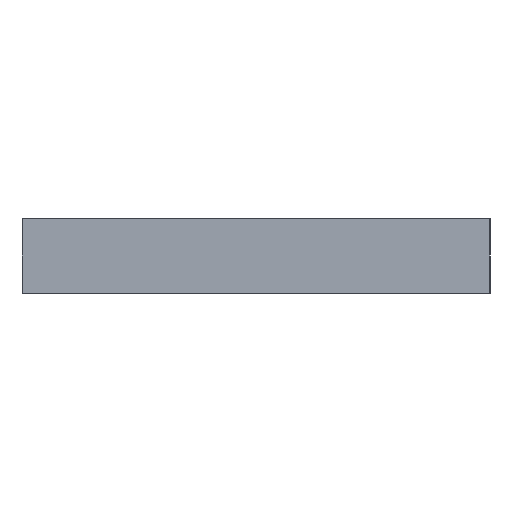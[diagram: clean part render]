
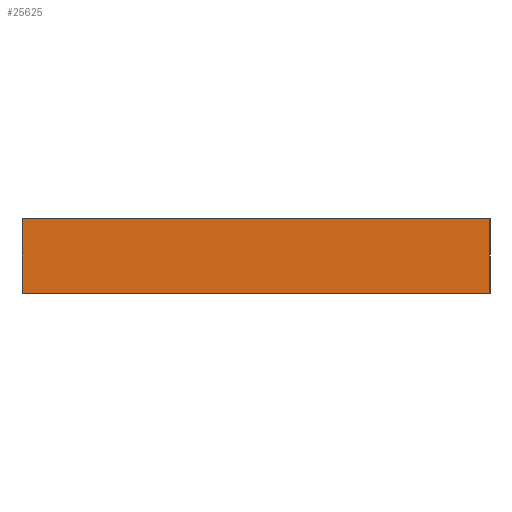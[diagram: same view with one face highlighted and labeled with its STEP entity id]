
A CAD part, left-side view. The second image highlights one B-rep face of the part: STEP entity #25625.
In plain terms, the highlighted planar face has unit normal (-1, 0, 0).
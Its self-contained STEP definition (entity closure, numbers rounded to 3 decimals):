
#269 = EDGE_CURVE ( 'NONE', #26257, #3126, #13758, .T. ) ;
#458 = VERTEX_POINT ( 'NONE', #26533 ) ;
#1340 = DIRECTION ( 'NONE',  ( 0., 0., 1. ) ) ;
#2895 = ORIENTED_EDGE ( 'NONE', *, *, #4667, .T. ) ;
#3126 = VERTEX_POINT ( 'NONE', #24850 ) ;
#3709 = DIRECTION ( 'NONE',  ( 0., -1., 0. ) ) ;
#3786 = CARTESIAN_POINT ( 'NONE',  ( -280., -192.5, -61. ) ) ;
#4667 = EDGE_CURVE ( 'NONE', #26257, #21161, #18159, .T. ) ;
#6723 = CARTESIAN_POINT ( 'NONE',  ( -280., -192.5, -61. ) ) ;
#10070 = AXIS2_PLACEMENT_3D ( 'NONE', #26064, #16195, #1340 ) ;
#12204 = EDGE_CURVE ( 'NONE', #21161, #458, #31233, .T. ) ;
#12692 = ORIENTED_EDGE ( 'NONE', *, *, #12204, .T. ) ;
#13751 = EDGE_CURVE ( 'NONE', #3126, #458, #14630, .T. ) ;
#13758 = LINE ( 'NONE', #25905, #17455 ) ;
#14630 = LINE ( 'NONE', #18241, #28545 ) ;
#16195 = DIRECTION ( 'NONE',  ( -1., 0., 0. ) ) ;
#17455 = VECTOR ( 'NONE', #32167, 1000. ) ;
#18033 = VECTOR ( 'NONE', #30394, 1000. ) ;
#18159 = LINE ( 'NONE', #3786, #18269 ) ;
#18241 = CARTESIAN_POINT ( 'NONE',  ( -280., -192.5, 0. ) ) ;
#18269 = VECTOR ( 'NONE', #3709, 1000. ) ;
#21161 = VERTEX_POINT ( 'NONE', #6723 ) ;
#22475 = CARTESIAN_POINT ( 'NONE',  ( -280., 192.5, -61. ) ) ;
#23082 = DIRECTION ( 'NONE',  ( 0., -1., 0. ) ) ;
#24347 = ORIENTED_EDGE ( 'NONE', *, *, #13751, .F. ) ;
#24651 = EDGE_LOOP ( 'NONE', ( #24347, #26375, #2895, #12692 ) ) ;
#24850 = CARTESIAN_POINT ( 'NONE',  ( -280., 192.5, 0. ) ) ;
#25625 = ADVANCED_FACE ( 'NONE', ( #30013 ), #31037, .T. ) ;
#25905 = CARTESIAN_POINT ( 'NONE',  ( -280., 192.5, -61. ) ) ;
#26064 = CARTESIAN_POINT ( 'NONE',  ( -280., -192.5, -61. ) ) ;
#26257 = VERTEX_POINT ( 'NONE', #22475 ) ;
#26375 = ORIENTED_EDGE ( 'NONE', *, *, #269, .F. ) ;
#26533 = CARTESIAN_POINT ( 'NONE',  ( -280., -192.5, 0. ) ) ;
#28545 = VECTOR ( 'NONE', #23082, 1000. ) ;
#30013 = FACE_OUTER_BOUND ( 'NONE', #24651, .T. ) ;
#30172 = CARTESIAN_POINT ( 'NONE',  ( -280., -192.5, -61. ) ) ;
#30394 = DIRECTION ( 'NONE',  ( 0., 0., 1. ) ) ;
#31037 = PLANE ( 'NONE',  #10070 ) ;
#31233 = LINE ( 'NONE', #30172, #18033 ) ;
#32167 = DIRECTION ( 'NONE',  ( 0., 0., 1. ) ) ;
